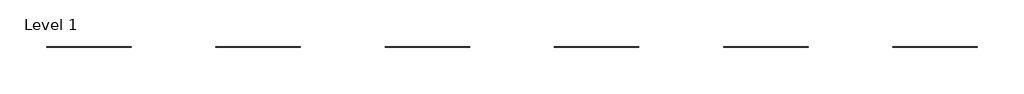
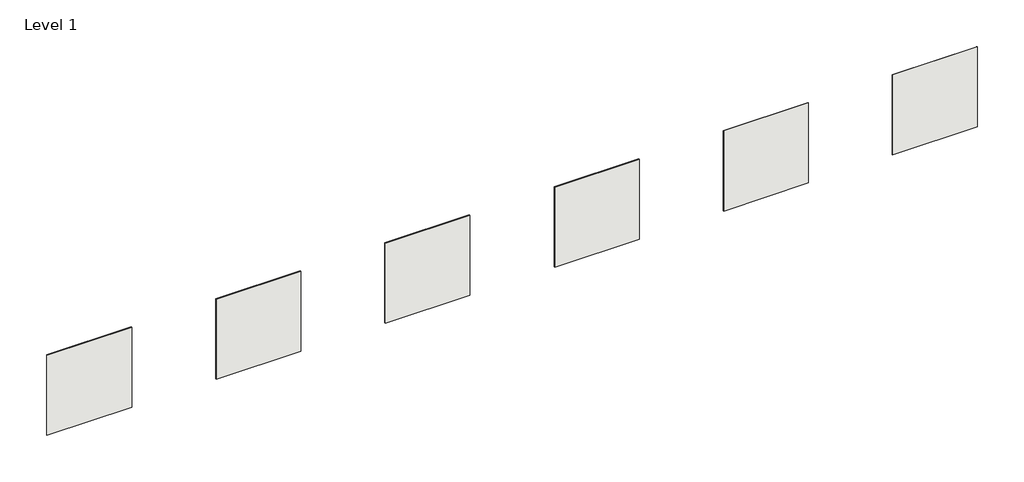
# One storey: 6 coverings.
"""IFC4 building model written with IfcOpenShell, lengths in millimetres."""

from ifc_helpers import new_model, si_unit, origin, origin_with_axes, place, context, project, spatial, polyline, outline, extrude, element, save

model = new_model("IFC4")

# Units and contexts
model_context = context("Model", 3, world=origin())
ifc_project = project(units=[si_unit("LENGTHUNIT", "METRE", prefix="MILLI")], contexts=[model_context])

# Site, building, storey
site = spatial("IfcSite", under=ifc_project)
building = spatial("IfcBuilding", under=site)
storey = spatial("IfcBuildingStorey", under=building, Name="Level 1", Elevation=0.0)

# Coverings
placement = place(None, origin())
element("IfcCovering", 1, ObjectType="REVIGRES-BLOCK-144x144-GLOSSY-BLACK", at=placement, inside=storey, context=model_context, shape_type="SweptSolid", body=[
    extrude(outline(polyline([(1105.3469355, 18020.3776243), (105.3469355, 18020.3776243), (105.3469355, 18028.8776243), (1105.3469355, 18028.8776243), (1105.3469355, 18020.3776243)])), origin_with_axes(), (0.0, 0.0, 1.0), 1000.0),
])
element("IfcCovering", 2, ObjectType="REVIGRES-BLOCK-144x144-GLOSSY-BLUE", at=placement, inside=storey, context=model_context, shape_type="SweptSolid", body=[
    extrude(outline(polyline([(3105.3469355, 18020.3776243), (2105.3469355, 18020.3776243), (2105.3469355, 18028.8776243), (3105.3469355, 18028.8776243), (3105.3469355, 18020.3776243)])), origin_with_axes(), (0.0, 0.0, 1.0), 1000.0),
])
element("IfcCovering", 3, ObjectType="REVIGRES-BLOCK-144x144-GLOSSY-CRAFT", at=placement, inside=storey, context=model_context, shape_type="SweptSolid", body=[
    extrude(outline(polyline([(5105.3469355, 18020.3776243), (4105.3469355, 18020.3776243), (4105.3469355, 18028.8776243), (5105.3469355, 18028.8776243), (5105.3469355, 18020.3776243)])), origin_with_axes(), (0.0, 0.0, 1.0), 1000.0),
])
element("IfcCovering", 4, ObjectType="REVIGRES-BLOCK-144x144-GLOSSY-GREEN", at=placement, inside=storey, context=model_context, shape_type="SweptSolid", body=[
    extrude(outline(polyline([(7105.3469355, 18020.3776243), (6105.3469355, 18020.3776243), (6105.3469355, 18028.8776243), (7105.3469355, 18028.8776243), (7105.3469355, 18020.3776243)])), origin_with_axes(), (0.0, 0.0, 1.0), 1000.0),
])
element("IfcCovering", 5, ObjectType="REVIGRES-BLOCK-144x144-GLOSSY-TERRACOTTA", at=placement, inside=storey, context=model_context, shape_type="SweptSolid", body=[
    extrude(outline(polyline([(9105.3469355, 18020.3776243), (8105.3469355, 18020.3776243), (8105.3469355, 18028.8776243), (9105.3469355, 18028.8776243), (9105.3469355, 18020.3776243)])), origin_with_axes(), (0.0, 0.0, 1.0), 1000.0),
])
element("IfcCovering", 6, ObjectType="REVIGRES-BLOCK-144x144-GLOSSY-WHITE", at=placement, inside=storey, context=model_context, shape_type="SweptSolid", body=[
    extrude(outline(polyline([(11105.3469355, 18020.3776243), (10105.3469355, 18020.3776243), (10105.3469355, 18028.8776243), (11105.3469355, 18028.8776243), (11105.3469355, 18020.3776243)])), origin_with_axes(), (0.0, 0.0, 1.0), 1000.0),
])

save(model, "model.ifc")
